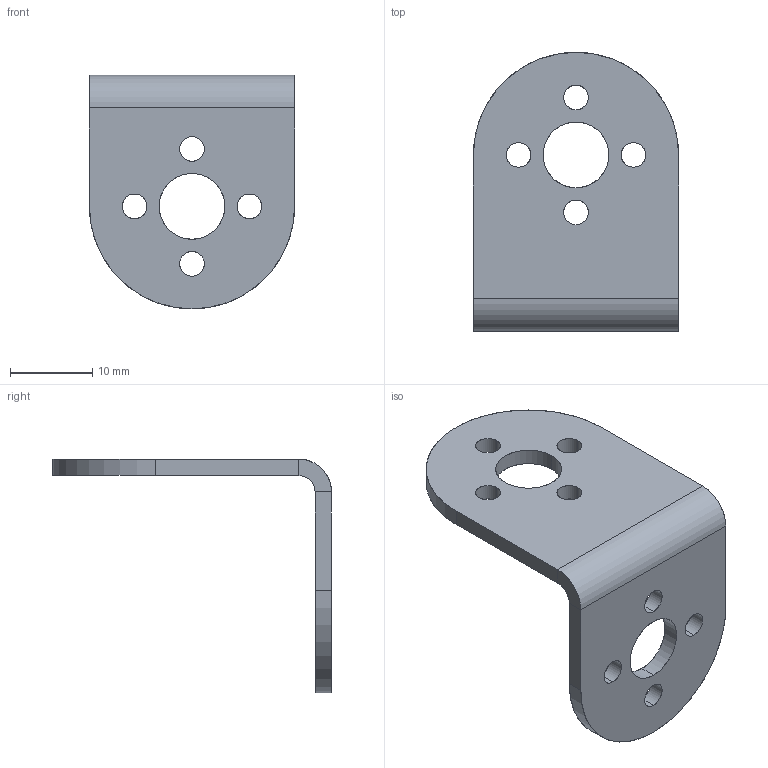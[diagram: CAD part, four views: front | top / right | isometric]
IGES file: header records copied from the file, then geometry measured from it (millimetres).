
Start section: SolidWorks IGES file using analytic representation for surfaces
Global section: file name: C:\Users\Alexandre\Dropbox\Etudes\Solidworks\Servo Mounts\Servo Bracket - Corner Mount_Défaut.igs; native system: SolidWorks 2015; preprocessor: SolidWorks 2015; author: Alexandre; date: 150906.130020; units: millimetre
Bounding box: 25 x 34 x 28.5 mm (x, y, z)
Surface area: 2923.5 mm2 (no closed solid volume)
Topology: 0 solids, 0 shells, 34 faces, 864 edges, 864 vertices
Faces by surface type: revolution 24, bspline 10
